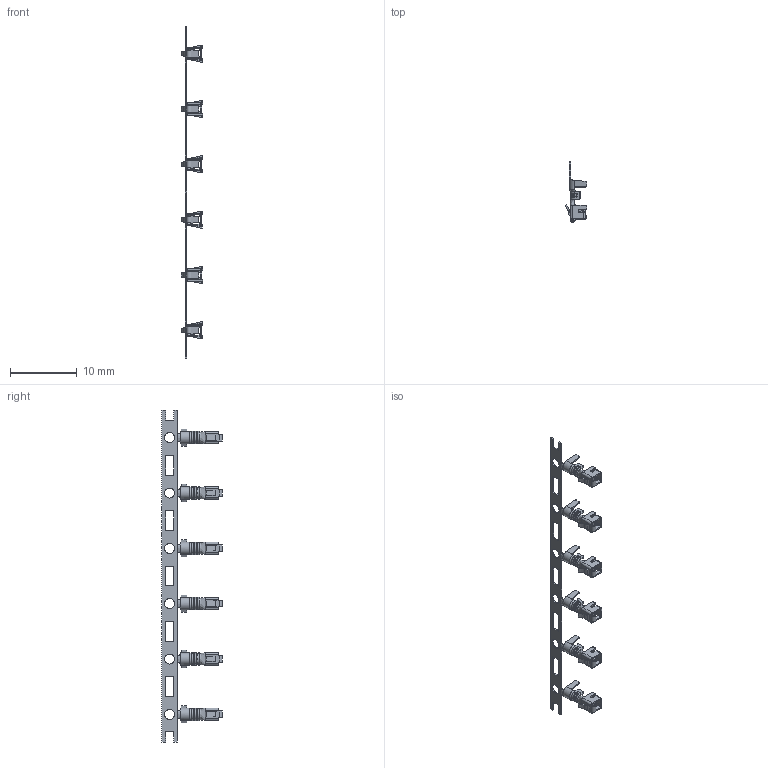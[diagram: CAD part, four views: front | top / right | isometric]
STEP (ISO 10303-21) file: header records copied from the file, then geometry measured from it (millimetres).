
FILE_DESCRIPTION (( 'STEP AP203' ), '1' );
FILE_NAME ('HC-XHB-T.STEP', '2024-06-21T00:48:48', ( '' ), ( '' ), 'SwSTEP 2.0', 'SolidWorks 2022', '' );
FILE_SCHEMA (( 'CONFIG_CONTROL_DESIGN' ));
Length unit declared in the file: millimetre
Products named in the file (1): HC-XHB-T
Bounding box: 3.15 x 9.02 x 49.8 mm (x, y, z)
Volume: 54.1 mm3; surface area: 649.1 mm2
Topology: 1 solids, 1 shells, 928 faces, 2772 edges, 1828 vertices
Faces by surface type: plane 472, cylinder 408, bspline 48
Entity records: 44149 total; most frequent: CARTESIAN_POINT 20385, ORIENTED_EDGE 5544, DIRECTION 4288, EDGE_CURVE 2772, VERTEX_POINT 1828, LINE 1662, VECTOR 1662, AXIS2_PLACEMENT_3D 1313
